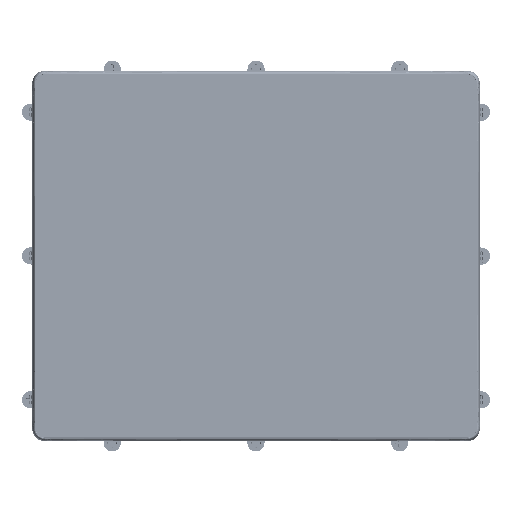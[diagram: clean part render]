
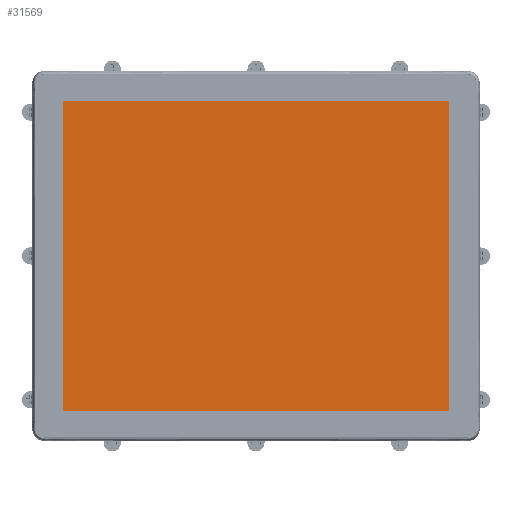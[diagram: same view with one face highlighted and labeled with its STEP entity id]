
A CAD part, top view. The second image highlights one B-rep face of the part: STEP entity #31569.
In plain terms, the highlighted planar face has unit normal (0, 0, 1).
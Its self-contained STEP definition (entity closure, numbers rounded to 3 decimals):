
#3340=DIRECTION('',(0.,-1.,0.));
#3341=VECTOR('',#3340,271.34);
#3342=CARTESIAN_POINT('',(-169.46,135.67,5.94));
#3343=LINE('',#3342,#3341);
#3344=DIRECTION('',(-1.,0.,0.));
#3345=VECTOR('',#3344,338.92);
#3346=CARTESIAN_POINT('',(169.46,135.67,5.94));
#3347=LINE('',#3346,#3345);
#3348=DIRECTION('',(0.,1.,0.));
#3349=VECTOR('',#3348,271.34);
#3350=CARTESIAN_POINT('',(169.46,-135.67,5.94));
#3351=LINE('',#3350,#3349);
#3352=DIRECTION('',(1.,0.,0.));
#3353=VECTOR('',#3352,338.92);
#3354=CARTESIAN_POINT('',(-169.46,-135.67,5.94));
#3355=LINE('',#3354,#3353);
#24363=CARTESIAN_POINT('',(-169.46,135.67,5.94));
#24365=VERTEX_POINT('',#24363);
#24368=CARTESIAN_POINT('',(-169.46,-135.67,5.94));
#24370=VERTEX_POINT('',#24368);
#24371=CARTESIAN_POINT('',(169.46,135.67,5.94));
#24373=VERTEX_POINT('',#24371);
#24375=CARTESIAN_POINT('',(169.46,-135.67,5.94));
#24377=VERTEX_POINT('',#24375);
#31558=CARTESIAN_POINT('',(0.,0.,5.94));
#31559=DIRECTION('',(0.,0.,1.));
#31560=DIRECTION('',(1.,0.,0.));
#31561=AXIS2_PLACEMENT_3D('',#31558,#31559,#31560);
#31562=PLANE('',#31561);
#31563=ORIENTED_EDGE('',*,*,#31481,.F.);
#31564=ORIENTED_EDGE('',*,*,#31505,.F.);
#31565=ORIENTED_EDGE('',*,*,#31524,.F.);
#31566=ORIENTED_EDGE('',*,*,#31544,.F.);
#31567=EDGE_LOOP('',(#31563,#31564,#31565,#31566));
#31568=FACE_OUTER_BOUND('',#31567,.F.);
#31569=ADVANCED_FACE('',(#31568),#31562,.T.);
#31481=EDGE_CURVE('',#24365,#24370,#3343,.T.);
#31505=EDGE_CURVE('',#24373,#24365,#3347,.T.);
#31524=EDGE_CURVE('',#24377,#24373,#3351,.T.);
#31544=EDGE_CURVE('',#24370,#24377,#3355,.T.);
